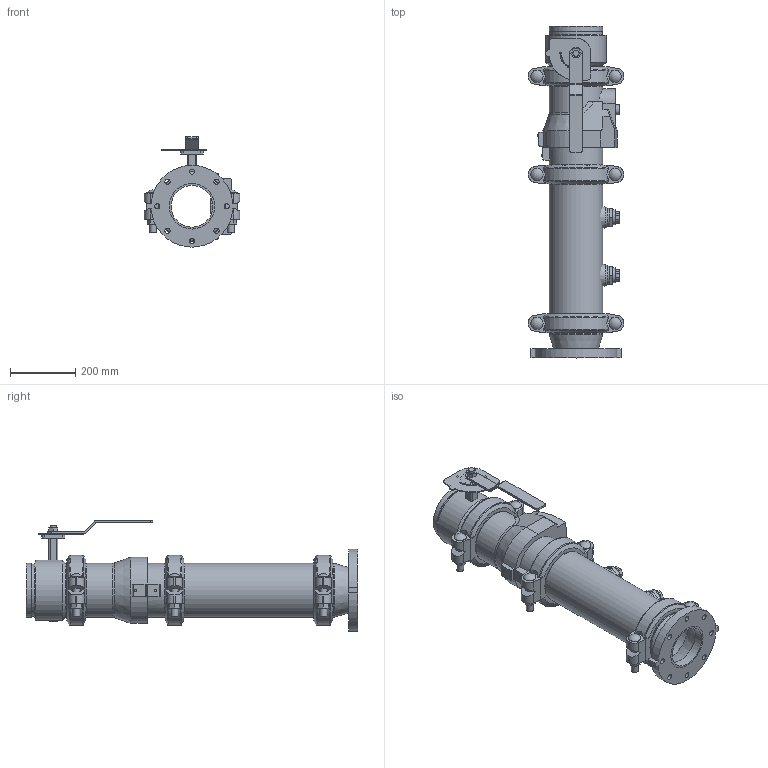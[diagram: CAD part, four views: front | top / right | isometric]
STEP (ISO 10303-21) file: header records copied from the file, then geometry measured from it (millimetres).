
FILE_DESCRIPTION(/* description */ ('VIC DVI PUMP DROP VERT S/390 (OGSxFLG)','CAx-IF Rec.Pracs.---Representation and Presentation of Product Manufacturing Information (PMI)---4.0---2014-10-13'),/* implementation_level */ '2;1');
FILE_NAME(/* name */ 'C:\Users\Vjadhav\AppData\Roaming\Autodesk\ApplicationPlugins\Back Up\Victaulic_IPS_Vertical DVI_PN10_Series 390 (OGSxFLG)\Victaulic_IPS_Vertical DVI_PN10_Series 390 (OGSxFLG)_06.0 (165.1)x05.0 (139.7) (150x125).stp',/* time_stamp */ '2020-11-09T17:51:00+05:00',/* author */ ('Vjadhav'),/* organization */ ('Victaulic'),/* preprocessor_version */ 'ST-DEVELOPER v17.2',/* originating_system */ 'Autodesk Inventor 2019',/* authorisation */ '');
FILE_SCHEMA (('AP242_MANAGED_MODEL_BASED_3D_ENGINEERING_MIM_LF { 1 0 10303 442 1 1 4 }'));
Length unit declared in the file: inch
Products named in the file (8): 390-06.0 (165.1)x05.0 (139.7); 741-05.0 (139.7); 050-06.0 (165.1)x05.0 (139.7); Pipe-06.0 (165.1); 177N-06.0 (165.1); 761-06.0 (165.1); 716-06.0 (165.1); 923-04.0x0.75
Assembly tree (10 placements, depth 2):
  390-06.0 (165.1)x05.0 (139.7)
    741-05.0 (139.7)
    050-06.0 (165.1)x05.0 (139.7)
    177N-06.0 (165.1)  x3
    Pipe-06.0 (165.1)
    761-06.0 (165.1)
    716-06.0 (165.1)
    923-04.0x0.75  x2
Bounding box: 292.61 x 1019.05 x 338.58 mm (x, y, z)
Volume: 10138129.7 mm3; surface area: 1790399.4 mm2
Topology: 10 solids, 11 shells, 610 faces, 1610 edges, 1075 vertices
Faces by surface type: plane 357, cylinder 208, cone 20, torus 17, sphere 6, bspline 2
Full cylindrical faces by diameter (mm): 4.826 x10, 7.62 x2, 8.636 x4, 16.002 x8, 19.05 x2, 21.209 x6, 22.86 x1, 26.67 x2, 30.48 x1, 37.694 x6, 45.974 x4, 55.118 x1, 55.626 x2, 128.194 x1, 135.484 x1, 139.7 x3, 150.876 x1, 152.4 x3, 153.975 x1, 154.051 x2, 160.782 x7, 165.1 x19, 185.42 x1
Entity records: 12528 total; most frequent: CARTESIAN_POINT 2395, DIRECTION 2081, ORIENTED_EDGE 1908, EDGE_CURVE 954, AXIS2_PLACEMENT_3D 783, VERTEX_POINT 643, LINE 515, VECTOR 515
